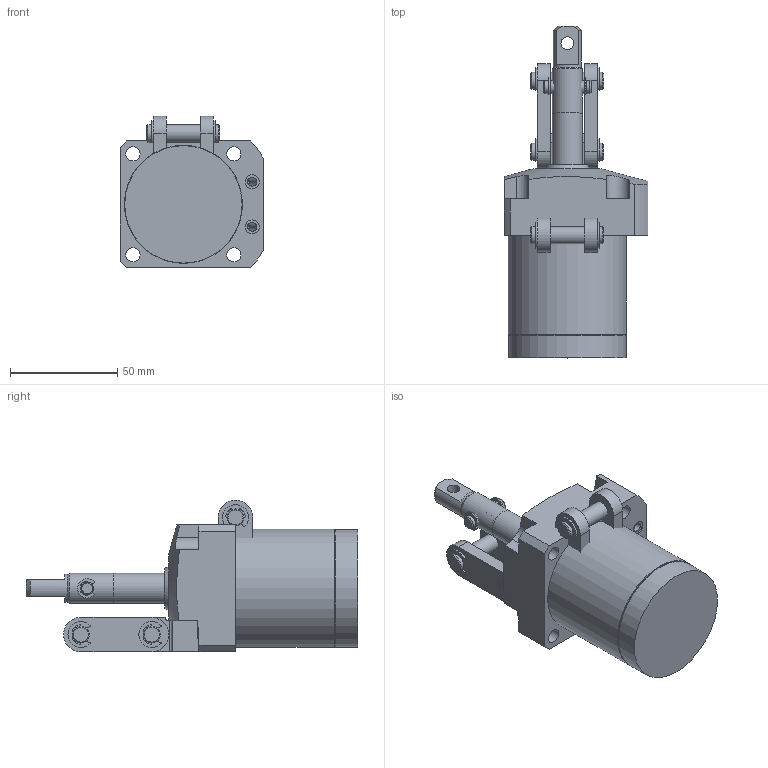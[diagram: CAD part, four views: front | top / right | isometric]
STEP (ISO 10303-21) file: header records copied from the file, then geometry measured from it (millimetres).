
FILE_DESCRIPTION( ( '' ), '1' );
FILE_NAME( 'W:/Catalogue/JL5H/JL5H34-25GR/JL5H34-25GR.stp', '2008-05-26T01:31:34', ( '機械事業部産業機器グループ' ), ( '豊和工業株式会社' ), 'XStep 1.0', ' ', ' ' );
FILE_SCHEMA( ( 'CONFIG_CONTROL_DESIGN' ) );
Length unit declared in the file: millimetre
Products named in the file (6): Assem1; 1; 2; 3; 4; 5
Bounding box: 67 x 154.5 x 70.5 mm (x, y, z)
Volume: 471286 mm3; surface area: 100691.2 mm2
Topology: 11 solids, 15 shells, 582 faces, 1501 edges, 979 vertices
Faces by surface type: plane 316, cylinder 218, cone 46, torus 2
Full cylindrical faces by diameter (mm): 2 x2, 4 x8, 5.5 x2, 6 x16, 6.5 x4, 6.6 x8, 8 x14, 8.3 x4, 13 x2, 14 x4, 16 x2, 20 x2, 24 x4, 34 x4, 54 x2, 54.7 x2, 55 x2
Entity records: 8738 total; most frequent: CARTESIAN_POINT 1678, DIRECTION 1487, ORIENTED_EDGE 1290, EDGE_CURVE 645, AXIS2_PLACEMENT_3D 580, VERTEX_POINT 456, EDGE_LOOP 387, LINE 327
